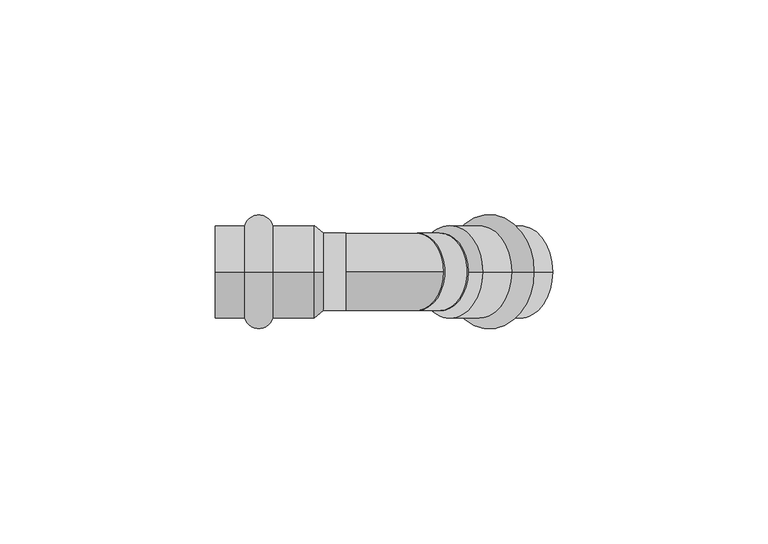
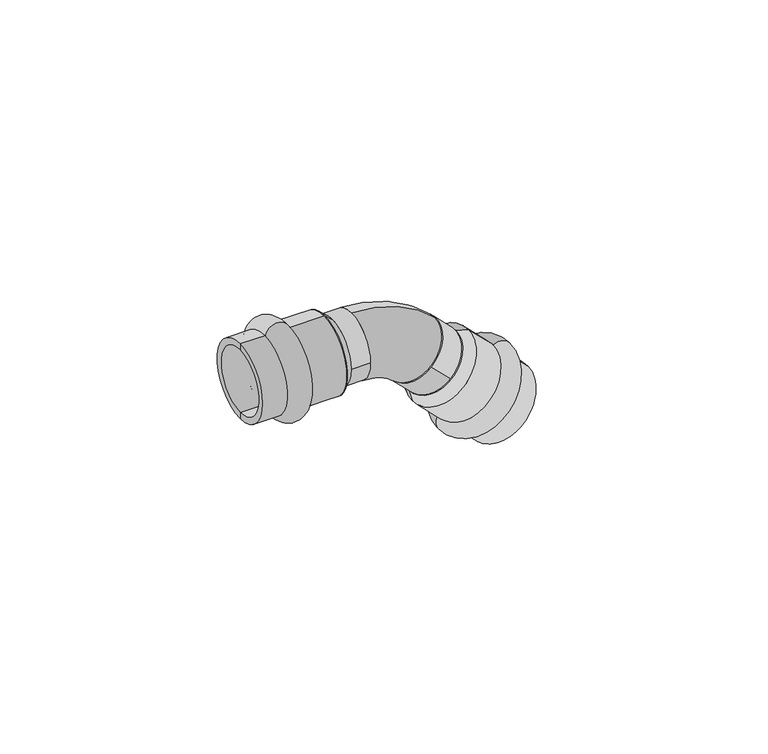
"""IFC4 building model written with IfcOpenShell, lengths in millimetres: pipe fitting geometry, VALTEC_VTi.959.I_Угольник 45° (раструб–раструб) нержавеющая сталь : Тип 1."""

from ifc_helpers import new_model, si_unit, point, frame, frame_2d, origin, origin_2d, place, context, project, spatial, polyline, circle_curve, ellipse_curve, trimmed, segment, composite_curve, outline, extrude, source, transform, mapped, element, save
from ifc_brep_helpers import plane_surface, cylinder_surface, revolved_surface, advanced_brep


def pipe_fitting_9ee9394e(model_context):
    return source(origin(), model_context, "Body", "SolidModel", [
        advanced_brep(
        [(-7.25, 0.0, 10.75), (-7.25, 0.0, -10.75), (-5.25, 0.0, 9.0), (-5.25, 0.0, -9.0)],
        [
            (0, 1, circle_curve(frame((-7.25, 0.0, 0.0), z_axis=(-1.0, 0.0, 0.0), x_axis=(0.0, 0.0, 1.0)), 10.75)),
            (1, 0, circle_curve(frame((-7.25, 0.0, 0.0), z_axis=(-1.0, 0.0, 0.0), x_axis=(0.0, 0.0, -1.0)), 10.75)),
            (2, 3, circle_curve(frame((-5.25, 0.0, 0.0), z_axis=(1.0, 0.0, 0.0), x_axis=(0.0, 0.0, -1.0)), 9.0)),
            (3, 2, circle_curve(frame((-5.25, 0.0, 0.0), z_axis=(1.0, 0.0, 0.0), x_axis=(0.0, 0.0, 1.0)), 9.0)),
            (3, 1),
            (0, 2),
        ],
        [
            plane_surface(frame((-7.25, 0.0, 0.0), z_axis=(-1.0, 0.0, 0.0), x_axis=(0.0, 1.0, 0.0))),
            plane_surface(frame((-5.25, 0.0, 0.0), z_axis=(1.0, 0.0, 0.0), x_axis=(0.0, 1.0, 0.0))),
            revolved_surface(polyline([(-5.25, 0.0, -9.000000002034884), (-7.25, 0.0, -10.75)]), (5.0357143, 0.0, 0.0), (-1.0, 0.0, 0.0)),
            revolved_surface(polyline([(-5.25, 0.0, 9.000000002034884), (-7.25, 0.0, 10.75)]), (5.0357143, 0.0, 0.0), (-1.0, 0.0, 0.0)),
        ],
        [
            (0, [[1, 2]]),
            (1, [[3, 4]]),
            (2, [[-4, 5, -1, 6]]),
            (3, [[-3, -6, -2, -5]]),
        ],
    ),
        advanced_brep(
        [(16.5756403, 0.0, -22.0444174), (31.7784361, 0.0, -6.8416216), (15.6917568, 0.0, -18.6856602), (28.4196789, 0.0, -5.9577381)],
        [
            (0, 1, circle_curve(frame((24.1770382, 0.0, -14.4430195), z_axis=(0.7071067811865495, 0.0, -0.7071067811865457), x_axis=(-0.7071067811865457, 0.0, -0.7071067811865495)), 10.75)),
            (1, 0, circle_curve(frame((24.1770382, 0.0, -14.4430195), z_axis=(0.7071067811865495, 0.0, -0.7071067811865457), x_axis=(0.7071067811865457, 0.0, 0.7071067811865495)), 10.75)),
            (2, 3, circle_curve(frame((22.0557179, 0.0, -12.3216991), z_axis=(-0.7071067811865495, 0.0, 0.7071067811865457), x_axis=(0.7071067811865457, 0.0, 0.7071067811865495)), 9.0)),
            (3, 2, circle_curve(frame((22.0557179, 0.0, -12.3216991), z_axis=(-0.7071067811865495, 0.0, 0.7071067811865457), x_axis=(-0.7071067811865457, 0.0, -0.7071067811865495)), 9.0)),
            (3, 1),
            (0, 2),
        ],
        [
            plane_surface(frame((24.1770382, 0.0, -14.4430195), z_axis=(0.7071067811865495, 0.0, -0.7071067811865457), x_axis=(0.0, 1.0, 0.0))),
            plane_surface(frame((22.0557179, 0.0, -12.3216991), z_axis=(-0.7071067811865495, 0.0, 0.7071067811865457), x_axis=(0.0, 1.0, 0.0))),
            revolved_surface(polyline([(28.419678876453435, 0.0, -5.9577381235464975), (31.7784361, 0.0, -6.8416216)]), (11.1460704, 0.0, -1.4120517), (0.7071067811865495, 0.0, -0.7071067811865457)),
            revolved_surface(polyline([(15.691756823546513, 0.0, -18.68566017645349), (16.575640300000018, 0.0, -22.044417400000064)]), (11.1460704, 0.0, -1.4120517), (0.7071067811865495, 0.0, -0.7071067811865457)),
        ],
        [
            (0, [[1, 2]]),
            (1, [[3, 4]]),
            (2, [[-4, 5, -1, 6]]),
            (3, [[-3, -6, -2, -5]]),
        ],
    ),
        advanced_brep(
        [(-23.4787193, 0.0, -10.75), (-23.4787193, 0.0, 10.75), (-16.9212807, 0.0, 10.75), (-16.9212807, 0.0, -10.75), (-30.25, 0.0, -10.75), (-30.25, 0.0, 10.75), (-30.25, 0.0, -9.0), (-30.25, 0.0, 9.0), (-7.25, 0.0, -9.0), (-7.25, 0.0, 9.0), (-7.25, 0.0, -10.75), (-7.25, 0.0, 10.75)],
        [
            (0, 1, circle_curve(frame((-23.4787193, 0.0, 0.0), z_axis=(1.0, 0.0, 0.0), x_axis=(0.0, 0.0, 1.0)), 10.75)),
            (1, 2, circle_curve(frame((-20.2, 0.0, 9.85), z_axis=(0.0, 1.0, 0.0), x_axis=(1.0, 0.0, 0.0)), 3.4)),
            (2, 3, circle_curve(frame((-16.9212807, 0.0, 0.0), z_axis=(-1.0, 0.0, 0.0), x_axis=(0.0, 0.0, 1.0)), 10.75)),
            (3, 0, circle_curve(frame((-20.2, 0.0, -9.85), z_axis=(0.0, 1.0, 0.0), x_axis=(1.0, 0.0, 0.0)), 3.4)),
            (1, 0, circle_curve(frame((-23.4787193, 0.0, 0.0), z_axis=(1.0, 0.0, 0.0), x_axis=(0.0, 0.0, 1.0)), 10.75)),
            (3, 2, circle_curve(frame((-16.9212807, 0.0, 0.0), z_axis=(-1.0, 0.0, 0.0), x_axis=(0.0, 0.0, 1.0)), 10.75)),
            (4, 5, circle_curve(frame((-30.25, 0.0, 0.0), z_axis=(1.0, 0.0, 0.0), x_axis=(0.0, 0.0, 1.0)), 10.75)),
            (5, 1),
            (0, 4),
            (5, 4, circle_curve(frame((-30.25, 0.0, 0.0), z_axis=(1.0, 0.0, 0.0), x_axis=(0.0, 0.0, 1.0)), 10.75)),
            (6, 7, circle_curve(frame((-30.25, 0.0, 0.0), z_axis=(1.0, 0.0, 0.0), x_axis=(0.0, 0.0, 1.0)), 9.0)),
            (7, 5),
            (4, 6),
            (7, 6, circle_curve(frame((-30.25, 0.0, 0.0), z_axis=(1.0, 0.0, 0.0), x_axis=(0.0, 0.0, 1.0)), 9.0)),
            (8, 9, circle_curve(frame((-7.25, 0.0, 0.0), z_axis=(1.0, 0.0, 0.0), x_axis=(0.0, 0.0, 1.0)), 9.0)),
            (9, 7),
            (6, 8),
            (9, 8, circle_curve(frame((-7.25, 0.0, 0.0), z_axis=(1.0, 0.0, 0.0), x_axis=(0.0, 0.0, 1.0)), 9.0)),
            (10, 11, circle_curve(frame((-7.25, 0.0, 0.0), z_axis=(1.0, 0.0, 0.0), x_axis=(0.0, 0.0, 1.0)), 10.75)),
            (11, 9),
            (8, 10),
            (11, 10, circle_curve(frame((-7.25, 0.0, 0.0), z_axis=(1.0, 0.0, 0.0), x_axis=(0.0, 0.0, 1.0)), 10.75)),
            (2, 11),
            (10, 3),
        ],
        [
            revolved_surface(trimmed(ellipse_curve(frame((-20.2, 0.0, 9.85), z_axis=(0.0, -1.0, 0.0), x_axis=(1.0, 0.0, 0.0)), 3.4, 3.4), [point((-16.9212807, 0.0, 10.75))], [point((-23.4787193, 0.0, 10.75))], True, "CARTESIAN"), (-33.7864426, 0.0, 0.0), (-1.0, 0.0, 0.0)),
            cylinder_surface(frame((-33.7864426, 0.0, 0.0), z_axis=(-1.0, 0.0, 0.0), x_axis=(0.0, 0.0, 1.0)), 10.75),
            plane_surface(frame((-30.25, 0.0, 0.0), z_axis=(-1.0, 0.0, 0.0), x_axis=(0.0, 0.0, 1.0))),
            revolved_surface(polyline([(-30.25, 0.0, 9.0), (-7.25, 0.0, 9.0)]), (-33.7864426, 0.0, 0.0), (-1.0, 0.0, 0.0)),
            plane_surface(frame((-7.25, 0.0, 0.0), z_axis=(1.0, 0.0, 0.0), x_axis=(0.0, 0.0, 1.0))),
        ],
        [
            (0, [[1, 2, 3, 4]]),
            (0, [[5, -4, 6, -2]]),
            (1, [[7, 8, -1, 9]]),
            (1, [[10, -9, -5, -8]]),
            (2, [[11, 12, -7, 13]]),
            (2, [[14, -13, -10, -12]]),
            (3, [[15, 16, -11, 17]]),
            (3, [[18, -17, -14, -16]]),
            (4, [[19, 20, -15, 21]]),
            (4, [[22, -21, -18, -20]]),
            (1, [[-3, 23, -19, 24]]),
            (1, [[-6, -24, -22, -23]]),
        ],
    ),
        advanced_brep(
        [(43.2538735, 0.0, -18.317059), (28.0510777, 0.0, -33.5198548), (23.4142685, 0.0, -28.8830456), (38.6170643, 0.0, -13.6802498), (48.0418921, 0.0, -23.1050776), (32.8390963, 0.0, -38.3078733), (46.8044552, 0.0, -24.3425144), (34.0765331, 0.0, -37.0704365), (30.5409992, 0.0, -8.0790585), (17.8130772, 0.0, -20.8069805), (31.7784361, 0.0, -6.8416216), (16.5756403, 0.0, -22.0444174)],
        [
            (0, 1, circle_curve(frame((35.6524756, 0.0, -25.9184569), z_axis=(-0.7071067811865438, 0.0, 0.7071067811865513), x_axis=(-0.7071067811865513, 0.0, -0.7071067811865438)), 10.75)),
            (1, 2, circle_curve(frame((26.3690692, 0.0, -30.5650541), z_axis=(0.0, 1.0, 0.0), x_axis=(-0.7071067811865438, 0.0, 0.7071067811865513)), 3.4)),
            (2, 3, circle_curve(frame((31.0156664, 0.0, -21.2816477), z_axis=(0.7071067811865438, 0.0, -0.7071067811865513), x_axis=(-0.7071067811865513, 0.0, -0.7071067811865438)), 10.75)),
            (3, 0, circle_curve(frame((40.2990728, 0.0, -16.6350505), z_axis=(0.0, 1.0, 0.0), x_axis=(-0.7071067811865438, 0.0, 0.7071067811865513)), 3.4)),
            (1, 0, circle_curve(frame((35.6524756, 0.0, -25.9184569), z_axis=(-0.7071067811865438, 0.0, 0.7071067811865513), x_axis=(-0.7071067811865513, 0.0, -0.7071067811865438)), 10.75)),
            (3, 2, circle_curve(frame((31.0156664, 0.0, -21.2816477), z_axis=(0.7071067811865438, 0.0, -0.7071067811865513), x_axis=(-0.7071067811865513, 0.0, -0.7071067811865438)), 10.75)),
            (4, 5, circle_curve(frame((40.4404942, 0.0, -30.7064755), z_axis=(-0.7071067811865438, 0.0, 0.7071067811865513), x_axis=(-0.7071067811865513, 0.0, -0.7071067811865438)), 10.75)),
            (5, 1),
            (0, 4),
            (5, 4, circle_curve(frame((40.4404942, 0.0, -30.7064755), z_axis=(-0.7071067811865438, 0.0, 0.7071067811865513), x_axis=(-0.7071067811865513, 0.0, -0.7071067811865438)), 10.75)),
            (6, 7, circle_curve(frame((40.4404942, 0.0, -30.7064755), z_axis=(-0.7071067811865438, 0.0, 0.7071067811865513), x_axis=(-0.7071067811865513, 0.0, -0.7071067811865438)), 9.0)),
            (7, 5),
            (4, 6),
            (7, 6, circle_curve(frame((40.4404942, 0.0, -30.7064755), z_axis=(-0.7071067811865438, 0.0, 0.7071067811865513), x_axis=(-0.7071067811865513, 0.0, -0.7071067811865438)), 9.0)),
            (8, 9, circle_curve(frame((24.1770382, 0.0, -14.4430195), z_axis=(-0.7071067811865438, 0.0, 0.7071067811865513), x_axis=(-0.7071067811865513, 0.0, -0.7071067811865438)), 9.0)),
            (9, 7),
            (6, 8),
            (9, 8, circle_curve(frame((24.1770382, 0.0, -14.4430195), z_axis=(-0.7071067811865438, 0.0, 0.7071067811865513), x_axis=(-0.7071067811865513, 0.0, -0.7071067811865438)), 9.0)),
            (10, 11, circle_curve(frame((24.1770382, 0.0, -14.4430195), z_axis=(-0.7071067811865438, 0.0, 0.7071067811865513), x_axis=(-0.7071067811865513, 0.0, -0.7071067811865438)), 10.75)),
            (11, 9),
            (8, 10),
            (11, 10, circle_curve(frame((24.1770382, 0.0, -14.4430195), z_axis=(-0.7071067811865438, 0.0, 0.7071067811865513), x_axis=(-0.7071067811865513, 0.0, -0.7071067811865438)), 10.75)),
            (2, 11),
            (10, 3),
        ],
        [
            revolved_surface(trimmed(ellipse_curve(frame((26.3690692, 0.0, -30.5650541), z_axis=(0.0, -1.0, 0.0), x_axis=(-0.7071067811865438, 0.0, 0.7071067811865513)), 3.4, 3.4), [point((23.4142685, 0.0, -28.8830456))], [point((28.0510777, 0.0, -33.5198548))], True, "CARTESIAN"), (42.9411367, 0.0, -33.207118), (0.7071067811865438, 0.0, -0.7071067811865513)),
            cylinder_surface(frame((42.9411367, 0.0, -33.207118), z_axis=(0.7071067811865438, 0.0, -0.7071067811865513), x_axis=(-0.7071067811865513, 0.0, -0.7071067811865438)), 10.75),
            plane_surface(frame((40.4404942, 0.0, -30.7064755), z_axis=(0.7071067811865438, 0.0, -0.7071067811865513), x_axis=(-0.7071067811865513, 0.0, -0.7071067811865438))),
            revolved_surface(polyline([(34.07653316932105, 0.0, -37.07043653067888), (17.8130771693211, 0.0, -20.80698053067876)]), (42.9411367, 0.0, -33.207118), (0.7071067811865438, 0.0, -0.7071067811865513)),
            plane_surface(frame((24.1770382, 0.0, -14.4430195), z_axis=(-0.7071067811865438, 0.0, 0.7071067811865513), x_axis=(-0.7071067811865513, 0.0, -0.7071067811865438))),
        ],
        [
            (0, [[1, 2, 3, 4]]),
            (0, [[5, -4, 6, -2]]),
            (1, [[7, 8, -1, 9]]),
            (1, [[10, -9, -5, -8]]),
            (2, [[11, 12, -7, 13]]),
            (2, [[14, -13, -10, -12]]),
            (3, [[15, 16, -11, 17]]),
            (3, [[18, -17, -14, -16]]),
            (4, [[19, 20, -15, 21]]),
            (4, [[22, -21, -18, -20]]),
            (1, [[-3, 23, -19, 24]]),
            (1, [[-6, -24, -22, -23]]),
        ],
    ),
        extrude(outline(composite_curve([segment(trimmed(circle_curve(origin_2d(), 9.0), [point((-9.0, 0.0))], [point((9.0, 0.0))], False, "CARTESIAN"), True, "CONTINUOUS"), segment(trimmed(circle_curve(origin_2d(), 9.0), [point((9.0, 0.0))], [point((-9.0, 0.0))], False, "CARTESIAN"), True, "CONTINUOUS")], self_intersect=False)), frame((-5.25, 0.0, 0.0), z_axis=(1.0, 0.0, 0.0), x_axis=(0.0, 1.0, 0.0)), (0.0, 0.0, 1.0), 5.25),
        extrude(outline(composite_curve([segment(trimmed(circle_curve(frame_2d((0.0, -9.0)), 9.0), [point((0.0, -18.0))], [point((0.0, 0.0))], False, "CARTESIAN"), True, "CONTINUOUS"), segment(trimmed(circle_curve(frame_2d((0.0, -9.0)), 9.0), [point((0.0, 0.0))], [point((0.0, -18.0))], False, "CARTESIAN"), True, "CONTINUOUS")], self_intersect=False)), frame((22.0557179, -9.0, -12.3216991), z_axis=(-0.7071067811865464, 0.0, 0.7071067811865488), x_axis=(-0.7071067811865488, 0.0, -0.7071067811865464)), (0.0, 0.0, 1.0), 7.6914953),
        advanced_brep(
        [(0.0, 0.0, -9.0), (0.0, 0.0, 9.0), (10.2530483, 0.0, -13.2469517), (22.9809704, 0.0, -0.5190296)],
        [
            (0, 1, circle_curve(frame((0.0, 0.0, 0.0), z_axis=(-1.0, 0.0, 0.0), x_axis=(0.0, 0.0, 1.0)), 9.0)),
            (1, 0, circle_curve(frame((0.0, 0.0, 0.0), z_axis=(-1.0, 0.0, 0.0), x_axis=(0.0, 0.0, 1.0)), 9.0)),
            (2, 3, circle_curve(frame((16.6170094, 0.0, -6.8829906), z_axis=(0.7071067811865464, 0.0, -0.7071067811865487), x_axis=(0.7071067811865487, 0.0, 0.7071067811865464)), 9.0)),
            (3, 2, circle_curve(frame((16.6170094, 0.0, -6.8829906), z_axis=(0.7071067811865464, 0.0, -0.7071067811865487), x_axis=(0.7071067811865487, 0.0, 0.7071067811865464)), 9.0)),
            (3, 1, circle_curve(frame((0.0, 0.0, -23.5), z_axis=(0.0, -1.0, 0.0), x_axis=(0.0, 0.0, 1.0)), 32.5)),
            (0, 2, circle_curve(frame((0.0, 0.0, -23.5), z_axis=(0.0, 1.0, 0.0), x_axis=(0.0, 0.0, 1.0)), 14.5)),
        ],
        [
            plane_surface(frame((0.0, 0.0, 0.0), z_axis=(-1.0, 0.0, 0.0), x_axis=(0.0, -1.0, 0.0))),
            plane_surface(frame((16.6170094, 0.0, -6.8829906), z_axis=(0.7071067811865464, 0.0, -0.7071067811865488), x_axis=(0.0, -1.0, 0.0))),
            revolved_surface(trimmed(ellipse_curve(frame((0.0, 0.0, 0.0), z_axis=(-1.0, 0.0, 0.0), x_axis=(0.0, 0.0, 1.0)), 9.0, 9.0), [point((0.0, 0.0, -9.0))], [point((0.0, 0.0, 9.0))], True, "CARTESIAN"), (0.0, 0.0, -23.5), (0.0, 1.0, 0.0)),
            revolved_surface(trimmed(ellipse_curve(frame((0.0, 0.0, 0.0), z_axis=(-1.0, 0.0, 0.0), x_axis=(0.0, 0.0, 1.0)), 9.0, 9.0), [point((0.0, 0.0, 9.0))], [point((0.0, 0.0, -9.0))], True, "CARTESIAN"), (0.0, 0.0, -23.5), (0.0, 1.0, 0.0)),
        ],
        [
            (0, [[1, 2]]),
            (1, [[3, 4]]),
            (2, [[5, -1, 6, -4]]),
            (3, [[-6, -2, -5, -3]]),
        ],
    ),
    ])


if __name__ == "__main__":
    model = new_model("IFC4")
    model_context = context("Model", 3, world=origin())
    ifc_project = project(units=[si_unit("LENGTHUNIT", "METRE", prefix="MILLI")], contexts=[model_context])
    site = spatial("IfcSite", under=ifc_project)
    building = spatial("IfcBuilding", under=site)
    placement = place(None, origin())
    pipe_fitting_shape = pipe_fitting_9ee9394e(model_context)
    element("IfcPipeFitting", 1, ObjectType="VALTEC_VTi.959.I_Угольник 45° (раструб–раструб) нержавеющая сталь : Тип 1", at=placement, inside=building, context=model_context, shape_type="MappedRepresentation", body=[
        mapped(pipe_fitting_shape, transform((0.0, 0.0, 0.0), x_axis=(1.0, 0.0, 0.0), y_axis=(0.0, 1.0, 0.0), z_axis=(0.0, 0.0, 1.0))),
    ])
    save(model, "model.ifc")
